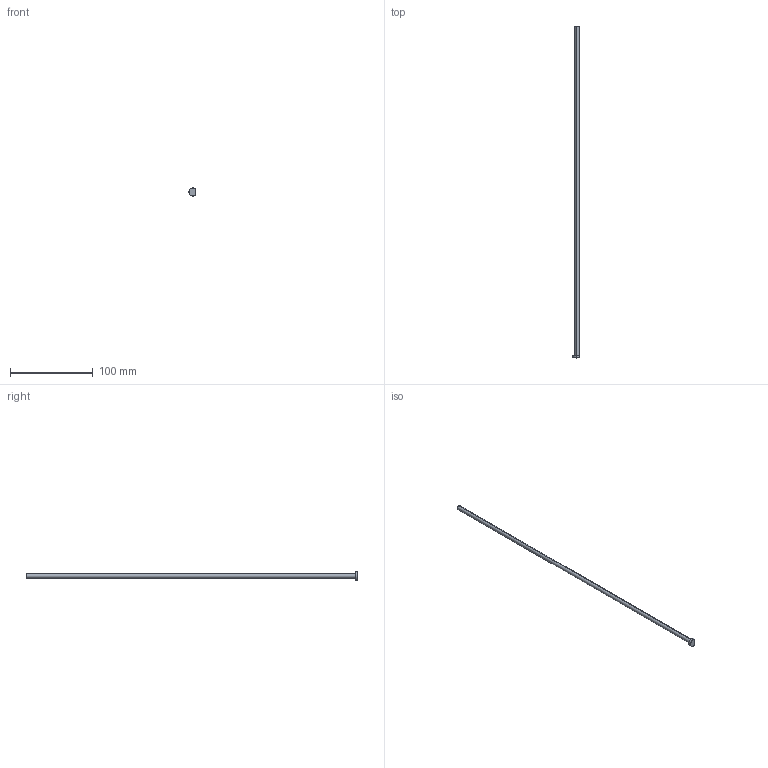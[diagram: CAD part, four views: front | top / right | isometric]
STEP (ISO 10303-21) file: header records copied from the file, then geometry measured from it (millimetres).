
FILE_DESCRIPTION (( 'STEP AP203' ), '1' );
FILE_NAME ('EPD052L400-K.step', '2022-04-08T19:17:08', ( 'Microsoft Corporation' ), ( 'MS' ), 'SwSTEP 2.0', 'SolidWorks 2019', '' );
FILE_SCHEMA (( 'CONFIG_CONTROL_DESIGN' ));
Length unit declared in the file: millimetre
Products named in the file (1): EPD052L400-K
Bounding box: 7.6 x 400 x 10 mm (x, y, z)
Volume: 8622.6 mm3; surface area: 6696.4 mm2
Topology: 1 solids, 1 shells, 18 faces, 41 edges, 25 vertices
Faces by surface type: cone 6, cylinder 5, plane 4, torus 3
Entity records: 598 total; most frequent: CARTESIAN_POINT 107, DIRECTION 95, ORIENTED_EDGE 82, EDGE_CURVE 41, AXIS2_PLACEMENT_3D 41, VERTEX_POINT 25, CIRCLE 22, ADVANCED_FACE 18
